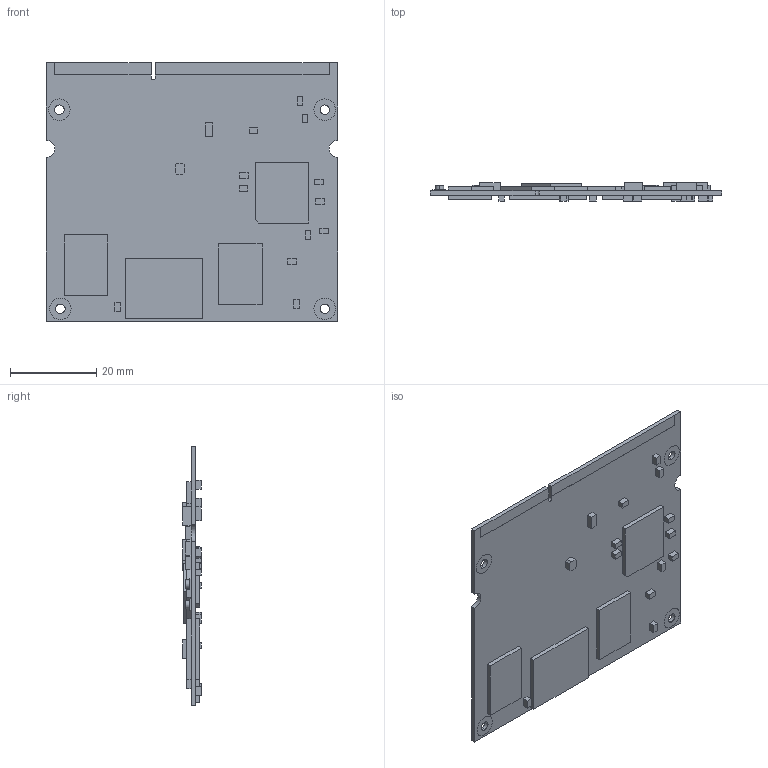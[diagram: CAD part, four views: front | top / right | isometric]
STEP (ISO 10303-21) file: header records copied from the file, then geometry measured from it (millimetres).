
FILE_DESCRIPTION (( 'STEP AP214' ), '1' );
FILE_NAME ('Stock Configuration, CM-QS600.STEP', '2014-06-15T06:46:03', ( '' ), ( '' ), 'SwSTEP 2.0', 'SolidWorks 2011', '' );
FILE_SCHEMA (( 'AUTOMOTIVE_DESIGN' ));
Length unit declared in the file: millimetre
Products named in the file (2): PCB-CM-QS600; Stock Configuration, CM-QS600
Assembly tree (1 placements, depth 2):
  Stock Configuration, CM-QS600
    PCB-CM-QS600
Bounding box: 67.6 x 4.3 x 60 mm (x, y, z)
Volume: 6155.3 mm3; surface area: 9402.7 mm2
Topology: 1 solids, 1 shells, 309 faces, 744 edges, 496 vertices
Faces by surface type: plane 270, cylinder 39
Entity records: 12115 total; most frequent: CARTESIAN_POINT 1553, ORIENTED_EDGE 1488, DIRECTION 1448, EDGE_CURVE 744, LINE 666, VECTOR 666, VERTEX_POINT 496, AXIS2_PLACEMENT_3D 391
